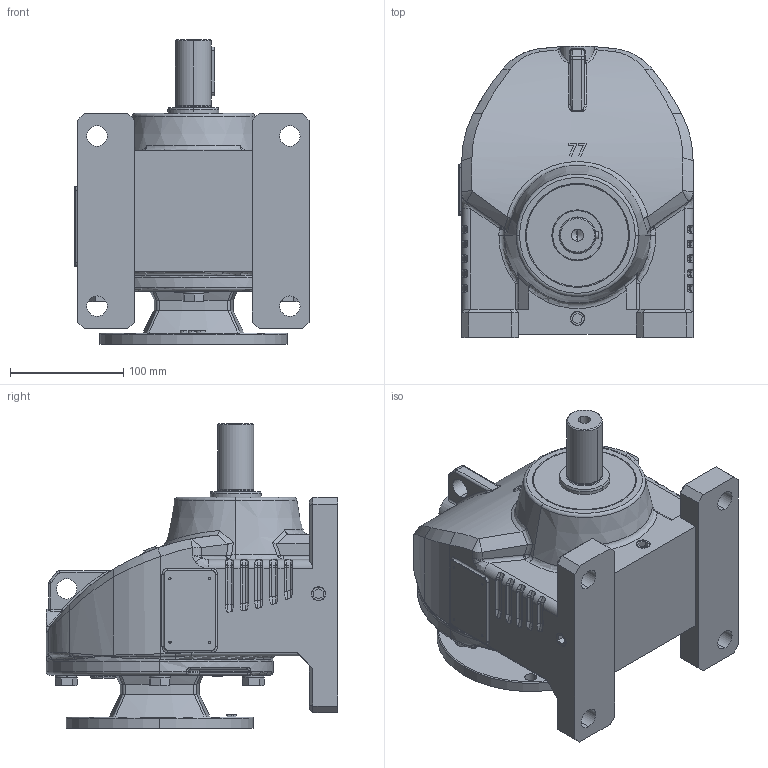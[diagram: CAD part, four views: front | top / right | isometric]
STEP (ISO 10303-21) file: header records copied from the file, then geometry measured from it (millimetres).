
FILE_DESCRIPTION (( 'STEP AP203' ), '1' );
FILE_NAME ('RX077HF-56C.STEP', '2015-03-16T05:33:04', ( 'user' ), ( '' ), 'SwSTEP 2.0', 'SolidWorks 2012', '' );
FILE_SCHEMA (( 'CONFIG_CONTROL_DESIGN' ));
Length unit declared in the file: millimetre
Products named in the file (24): RX077HF-56C; 077法蘭入力組合56C_1HP-SS; PVC03016_Spring Pin ISO 13337 - 3 x 8 - St; JKGASSxxR_JKGASS15R; KNGH056CSS1_KNGH056CSS; PWS10; PTBA10030; PSS030047061; PBA6006_SKF - 6006 - 14,DE,NC,14_68; PTAA08025; KFGG056C3; JHGA077QQ; PCA025; PCA040_JIS B 2804 Shaft use 40; PCB090; PSS045090101; PBA6308_SKF - 6308 - 10,DE,NC,10_68; PJB02; JKGB07791L_JKGB07791L; PKD0807018S; PKD1_4043; PBA6306; KEGX077; JCHX077
Assembly tree (38 placements, depth 3):
  RX077HF-56C
    JCHX077
    KEGX077
    PBA6306
    PKD1_4043
    PKD0807018S
    JKGB07791L_JKGB07791L
    PJB02  x5
    PBA6308_SKF - 6308 - 10,DE,NC,10_68
    PSS045090101
    PCB090
    PCA040_JIS B 2804 Shaft use 40
    PCA025
    077法蘭入力組合56C_1HP-SS
      JHGA077QQ
      KFGG056C3
      PTAA08025  x4
      PBA6006_SKF - 6006 - 14,DE,NC,14_68  x2
      PSS030047061
      PTBA10030  x4
      PWS10  x4
      PJB02
      KNGH056CSS1_KNGH056CSS
      JKGASSxxR_JKGASS15R
      PVC03016_Spring Pin ISO 13337 - 3 x 8 - St
Bounding box: 206.5 x 257.01 x 268.7 mm (x, y, z)
Volume: 2792753 mm3; surface area: 708496 mm2
Topology: 37 solids, 39 shells, 1993 faces, 5555 edges, 3496 vertices
Faces by surface type: cylinder 568, plane 514, torus 299, bspline 294, cone 218, sphere 100
Entity records: 79117 total; most frequent: CARTESIAN_POINT 35829, ORIENTED_EDGE 9038, DIRECTION 7876, EDGE_CURVE 4519, AXIS2_PLACEMENT_3D 3249, VERTEX_POINT 2877, EDGE_LOOP 1890, CIRCLE 1789
